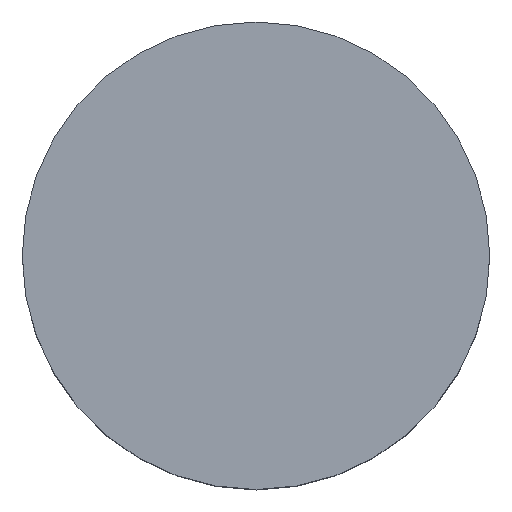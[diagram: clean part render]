
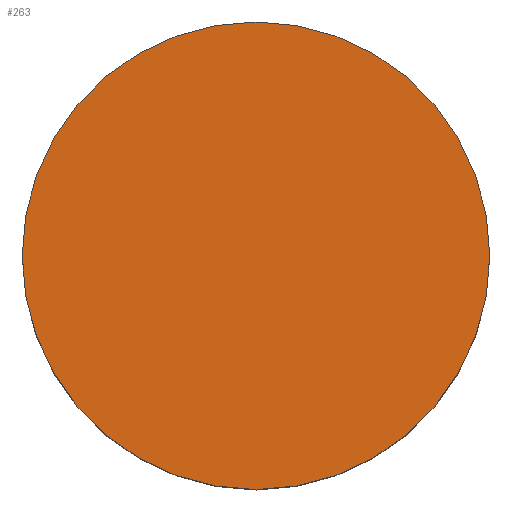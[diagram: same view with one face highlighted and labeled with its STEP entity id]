
A CAD part, top view. The second image highlights one B-rep face of the part: STEP entity #263.
In plain terms, the highlighted planar face has unit normal (0, 0, 1).
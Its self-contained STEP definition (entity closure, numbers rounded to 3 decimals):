
#32=PLANE('',#315);
#70=FACE_OUTER_BOUND('',#101,.T.);
#101=EDGE_LOOP('',(#222));
#131=CIRCLE('',#314,26.);
#153=VERTEX_POINT('',#478);
#179=EDGE_CURVE('',#153,#153,#131,.T.);
#222=ORIENTED_EDGE('',*,*,#179,.T.);
#263=ADVANCED_FACE('',(#70),#32,.T.);
#314=AXIS2_PLACEMENT_3D('',#479,#405,#406);
#315=AXIS2_PLACEMENT_3D('',#480,#407,#408);
#405=DIRECTION('center_axis',(0.,0.,1.));
#406=DIRECTION('ref_axis',(-1.,0.,0.));
#407=DIRECTION('center_axis',(0.,0.,1.));
#408=DIRECTION('ref_axis',(1.,0.,0.));
#478=CARTESIAN_POINT('',(26.,0.,31.));
#479=CARTESIAN_POINT('Origin',(0.,0.,31.));
#480=CARTESIAN_POINT('Origin',(0.,0.,31.));
